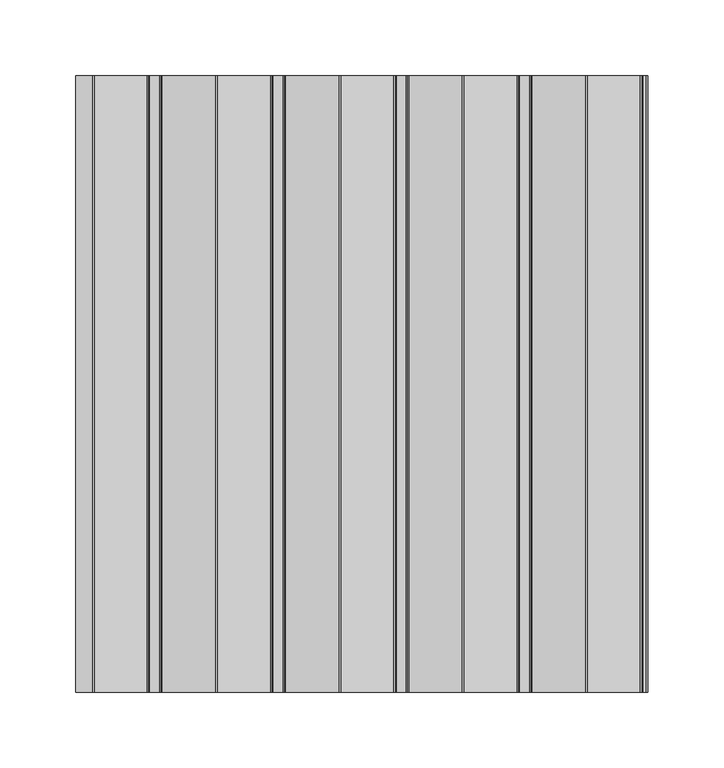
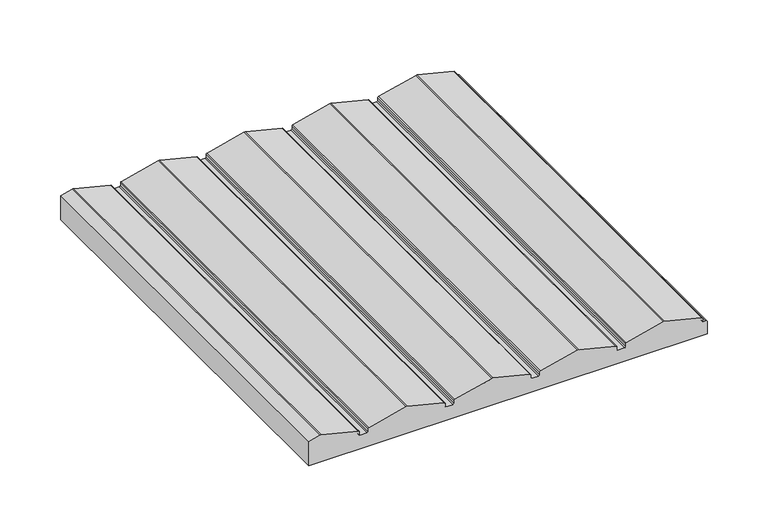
"""IFC4 building model written with IfcOpenShell, lengths in millimetres: proxy geometry, Spinneybeck_Porto 2 : Porto 2."""

from ifc_helpers import new_model, si_unit, point, frame, frame_2d, origin, place, context, project, spatial, polyline, circle_curve, trimmed, segment, composite_curve, outline, extrude, source, transform, mapped, element, save


def specialty_equipment_08d15245(model_context):
    return source(origin(), model_context, "Body", "SweptSolid", [
        extrude(outline(composite_curve([segment(polyline([(0.0, -174.0753011), (0.0, 203.2), (12.5078125, 203.2)]), True, "CONTINUOUS"), segment(trimmed(circle_curve(frame_2d((12.5078125, 202.2078125)), 0.9921875), [point((12.5078125, 203.2))], [point((13.5, 202.2078125))], False, "CARTESIAN"), True, "CONTINUOUS"), segment(polyline([(13.5, 202.2078125), (13.5, 199.9465867)]), True, "CONTINUOUS"), segment(trimmed(circle_curve(frame_2d((14.4921875, 199.9465867)), 0.9921875), [point((13.5, 199.9465867))], [point((14.4921875, 198.9543992))], True, "CARTESIAN"), True, "CONTINUOUS"), segment(polyline([(14.4921875, 198.9543992), (17.1606187, 198.9543992)]), True, "CONTINUOUS"), segment(trimmed(circle_curve(frame_2d((17.1606187, 197.9749387)), 0.9794605), [point((17.1606187, 198.9543992))], [point((18.1109851, 198.2118916))], False, "CARTESIAN"), True, "CONTINUOUS"), segment(polyline([(18.1109851, 198.2118916), (26.7965213, 163.3761084)]), True, "CONTINUOUS"), segment(trimmed(circle_curve(frame_2d((23.5232893, 162.56)), 3.3734375), [point((26.7965213, 163.3761084))], [point((26.7965213, 161.7438916))], False, "CARTESIAN"), True, "CONTINUOUS"), segment(polyline([(26.7965213, 161.7438916), (18.1109851, 126.9081084)]), True, "CONTINUOUS"), segment(trimmed(circle_curve(frame_2d((17.1606187, 127.1450613)), 0.9794605), [point((18.1109851, 126.9081084))], [point((17.1606187, 126.1656008))], False, "CARTESIAN"), True, "CONTINUOUS"), segment(polyline([(17.1606187, 126.1656008), (14.4921875, 126.1656008)]), True, "CONTINUOUS"), segment(trimmed(circle_curve(frame_2d((14.4921875, 125.1734133)), 0.9921875), [point((14.4921875, 126.1656008))], [point((13.5, 125.1734133))], True, "CARTESIAN"), True, "CONTINUOUS"), segment(polyline([(13.5, 125.1734133), (13.5, 118.6665867)]), True, "CONTINUOUS"), segment(trimmed(circle_curve(frame_2d((14.4921875, 118.6665867)), 0.9921875), [point((13.5, 118.6665867))], [point((14.4921875, 117.6743992))], True, "CARTESIAN"), True, "CONTINUOUS"), segment(polyline([(14.4921875, 117.6743992), (17.1606187, 117.6743992)]), True, "CONTINUOUS"), segment(trimmed(circle_curve(frame_2d((17.1606187, 116.6949387)), 0.9794605), [point((17.1606187, 117.6743992))], [point((18.1109851, 116.9318916))], False, "CARTESIAN"), True, "CONTINUOUS"), segment(polyline([(18.1109851, 116.9318916), (26.7965213, 82.0961084)]), True, "CONTINUOUS"), segment(trimmed(circle_curve(frame_2d((23.5232893, 81.28)), 3.3734375), [point((26.7965213, 82.0961084))], [point((26.7965213, 80.4638916))], False, "CARTESIAN"), True, "CONTINUOUS"), segment(polyline([(26.7965213, 80.4638916), (18.1109851, 45.6281084)]), True, "CONTINUOUS"), segment(trimmed(circle_curve(frame_2d((17.1606187, 45.8650613)), 0.9794605), [point((18.1109851, 45.6281084))], [point((17.1606187, 44.8856008))], False, "CARTESIAN"), True, "CONTINUOUS"), segment(polyline([(17.1606187, 44.8856008), (14.4921875, 44.8856008)]), True, "CONTINUOUS"), segment(trimmed(circle_curve(frame_2d((14.4921875, 43.8934133)), 0.9921875), [point((14.4921875, 44.8856008))], [point((13.5, 43.8934133))], True, "CARTESIAN"), True, "CONTINUOUS"), segment(polyline([(13.5, 43.8934133), (13.5, 37.3865867)]), True, "CONTINUOUS"), segment(trimmed(circle_curve(frame_2d((14.4921875, 37.3865867)), 0.9921875), [point((13.5, 37.3865867))], [point((14.4921875, 36.3943992))], True, "CARTESIAN"), True, "CONTINUOUS"), segment(polyline([(14.4921875, 36.3943992), (17.1606187, 36.3943992)]), True, "CONTINUOUS"), segment(trimmed(circle_curve(frame_2d((17.1606187, 35.4149387)), 0.9794605), [point((17.1606187, 36.3943992))], [point((18.1109851, 35.6518916))], False, "CARTESIAN"), True, "CONTINUOUS"), segment(polyline([(18.1109851, 35.6518916), (26.7965213, 0.8161084)]), True, "CONTINUOUS"), segment(trimmed(circle_curve(frame_2d((23.5232893, 0.0)), 3.3734375), [point((26.7965213, 0.8161084))], [point((26.7965213, -0.8161084))], False, "CARTESIAN"), True, "CONTINUOUS"), segment(polyline([(26.7965213, -0.8161084), (18.1109851, -35.6518916)]), True, "CONTINUOUS"), segment(trimmed(circle_curve(frame_2d((17.1606187, -35.4149387)), 0.9794605), [point((18.1109851, -35.6518916))], [point((17.1606187, -36.3943992))], False, "CARTESIAN"), True, "CONTINUOUS"), segment(polyline([(17.1606187, -36.3943992), (14.4921875, -36.3943992)]), True, "CONTINUOUS"), segment(trimmed(circle_curve(frame_2d((14.4921875, -37.3865867)), 0.9921875), [point((14.4921875, -36.3943992))], [point((13.5, -37.3865867))], True, "CARTESIAN"), True, "CONTINUOUS"), segment(polyline([(13.5, -37.3865867), (13.5, -43.8934133)]), True, "CONTINUOUS"), segment(trimmed(circle_curve(frame_2d((14.4921875, -43.8934133)), 0.9921875), [point((13.5, -43.8934133))], [point((14.4921875, -44.8856008))], True, "CARTESIAN"), True, "CONTINUOUS"), segment(polyline([(14.4921875, -44.8856008), (17.1606187, -44.8856008)]), True, "CONTINUOUS"), segment(trimmed(circle_curve(frame_2d((17.1606187, -45.8650613)), 0.9794605), [point((17.1606187, -44.8856008))], [point((18.1109851, -45.6281084))], False, "CARTESIAN"), True, "CONTINUOUS"), segment(polyline([(18.1109851, -45.6281084), (26.7965213, -80.4638916)]), True, "CONTINUOUS"), segment(trimmed(circle_curve(frame_2d((23.5232893, -81.28)), 3.3734375), [point((26.7965213, -80.4638916))], [point((26.7965213, -82.0961084))], False, "CARTESIAN"), True, "CONTINUOUS"), segment(polyline([(26.7965213, -82.0961084), (18.1109851, -116.9318916)]), True, "CONTINUOUS"), segment(trimmed(circle_curve(frame_2d((17.1606187, -116.6949387)), 0.9794605), [point((18.1109851, -116.9318916))], [point((17.1606187, -117.6743992))], False, "CARTESIAN"), True, "CONTINUOUS"), segment(polyline([(17.1606187, -117.6743992), (14.4921875, -117.6743992)]), True, "CONTINUOUS"), segment(trimmed(circle_curve(frame_2d((14.4921875, -118.6665867)), 0.9921875), [point((14.4921875, -117.6743992))], [point((13.5, -118.6665867))], True, "CARTESIAN"), True, "CONTINUOUS"), segment(polyline([(13.5, -118.6665867), (13.5, -125.1734133)]), True, "CONTINUOUS"), segment(trimmed(circle_curve(frame_2d((14.4921875, -125.1734133)), 0.9921875), [point((13.5, -125.1734133))], [point((14.4921875, -126.1656008))], True, "CARTESIAN"), True, "CONTINUOUS"), segment(polyline([(14.4921875, -126.1656008), (17.1606187, -126.1656008)]), True, "CONTINUOUS"), segment(trimmed(circle_curve(frame_2d((17.1606187, -127.1450613)), 0.9794605), [point((17.1606187, -126.1656008))], [point((18.1109851, -126.9081084))], False, "CARTESIAN"), True, "CONTINUOUS"), segment(polyline([(18.1109851, -126.9081084), (26.7972605, -161.7468564)]), True, "CONTINUOUS"), segment(trimmed(circle_curve(frame_2d((23.5359198, -162.56)), 3.3611822), [point((26.7972605, -161.7468564))], [point((26.7972605, -163.3731436))], False, "CARTESIAN"), True, "CONTINUOUS"), segment(polyline([(26.7972605, -163.3731436), (24.128913, -174.0753011), (0.0, -174.0753011)]), True, "CONTINUOUS")], self_intersect=False)), frame((0.0, -203.2, 0.0), z_axis=(0.0, 1.0, 0.0), x_axis=(0.0, 0.0, 1.0)), (0.0, 0.0, 1.0), 406.4),
    ])


if __name__ == "__main__":
    model = new_model("IFC4")
    model_context = context("Model", 3, world=origin())
    ifc_project = project(units=[si_unit("LENGTHUNIT", "METRE", prefix="MILLI")], contexts=[model_context])
    site = spatial("IfcSite", under=ifc_project)
    building = spatial("IfcBuilding", under=site)
    placement = place(None, origin())
    specialty_equipment_shape = specialty_equipment_08d15245(model_context)
    element("IfcBuildingElementProxy", 1, Name="Spinneybeck_Porto 2 : Porto 2", ObjectType="Spinneybeck_Porto 2 : Porto 2", at=placement, inside=building, context=model_context, shape_type="MappedRepresentation", body=[
        mapped(specialty_equipment_shape, transform((0.0, 0.0, 0.0), x_axis=(1.0, 0.0, 0.0), y_axis=(0.0, 1.0, 0.0), z_axis=(0.0, 0.0, 1.0))),
    ])
    save(model, "model.ifc")
